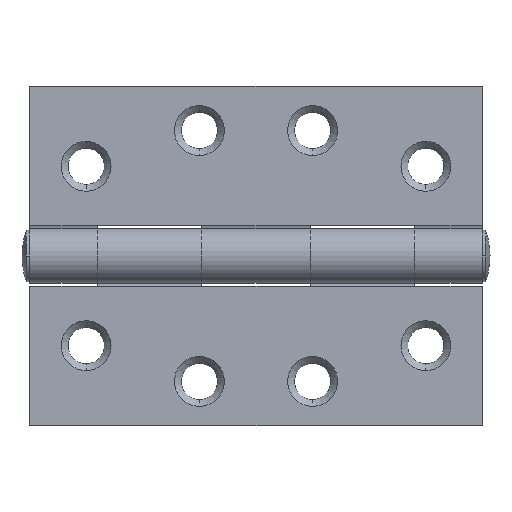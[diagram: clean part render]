
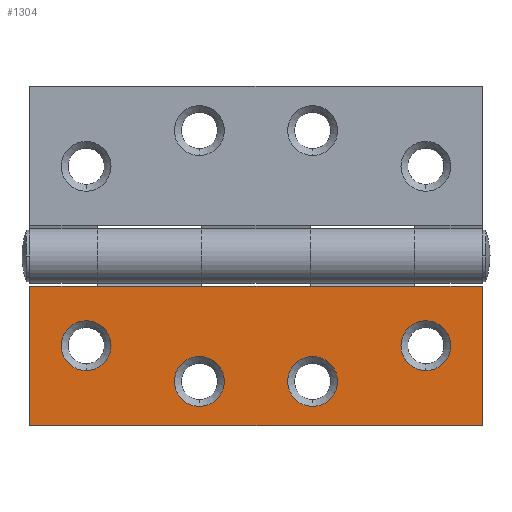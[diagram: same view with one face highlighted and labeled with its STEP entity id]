
A CAD part, left-side view. The second image highlights one B-rep face of the part: STEP entity #1304.
In plain terms, the highlighted planar face has unit normal (-1, 0, 0) as drawn and (0, 1, 0) by its records, which use the part's own axes.
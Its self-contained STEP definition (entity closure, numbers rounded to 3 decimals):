
#16 = AXIS2_PLACEMENT_3D ( 'NONE', #2239, #921, #2735 ) ;
#33 = CARTESIAN_POINT ( 'NONE',  ( 50., 0., 0. ) ) ;
#40 = ORIENTED_EDGE ( 'NONE', *, *, #143, .T. ) ;
#46 = AXIS2_PLACEMENT_3D ( 'NONE', #118, #1732, #2737 ) ;
#51 = EDGE_CURVE ( 'NONE', #616, #1206, #963, .T. ) ;
#66 = VECTOR ( 'NONE', #847, 1000. ) ;
#118 = CARTESIAN_POINT ( 'NONE',  ( 12.5, 0., -21.07 ) ) ;
#143 = EDGE_CURVE ( 'NONE', #1206, #616, #1952, .T. ) ;
#169 = CARTESIAN_POINT ( 'NONE',  ( 37.5, 0., -13.17 ) ) ;
#171 = CARTESIAN_POINT ( 'NONE',  ( 50., 0., 0. ) ) ;
#199 = EDGE_CURVE ( 'NONE', #2442, #2938, #706, .T. ) ;
#204 = EDGE_LOOP ( 'NONE', ( #2121, #2238 ) ) ;
#227 = VERTEX_POINT ( 'NONE', #1708 ) ;
#256 = VECTOR ( 'NONE', #770, 1000. ) ;
#295 = DIRECTION ( 'NONE',  ( 0., -1., 0. ) ) ;
#296 = VECTOR ( 'NONE', #3100, 1000. ) ;
#310 = VERTEX_POINT ( 'NONE', #686 ) ;
#348 = CARTESIAN_POINT ( 'NONE',  ( -12., 0., 0. ) ) ;
#352 = CIRCLE ( 'NONE', #1311, 5.5 ) ;
#384 = EDGE_CURVE ( 'NONE', #2938, #2821, #1869, .T. ) ;
#385 = DIRECTION ( 'NONE',  ( 0., 0., -1. ) ) ;
#387 = DIRECTION ( 'NONE',  ( 0., 0., 1. ) ) ;
#397 = ORIENTED_EDGE ( 'NONE', *, *, #1814, .T. ) ;
#410 = EDGE_LOOP ( 'NONE', ( #909, #397 ) ) ;
#430 = AXIS2_PLACEMENT_3D ( 'NONE', #589, #295, #1909 ) ;
#455 = CARTESIAN_POINT ( 'NONE',  ( 12., 0., 0. ) ) ;
#512 = DIRECTION ( 'NONE',  ( 0., 1., 0. ) ) ;
#519 = ORIENTED_EDGE ( 'NONE', *, *, #2359, .F. ) ;
#521 = EDGE_LOOP ( 'NONE', ( #1164, #1193 ) ) ;
#566 = AXIS2_PLACEMENT_3D ( 'NONE', #620, #3037, #387 ) ;
#577 = FACE_BOUND ( 'NONE', #410, .T. ) ;
#578 = EDGE_LOOP ( 'NONE', ( #2440, #2449, #3230, #1693, #2616, #519, #794, #874 ) ) ;
#585 = CIRCLE ( 'NONE', #3309, 5.5 ) ;
#589 = CARTESIAN_POINT ( 'NONE',  ( -37.5, 0., -13.17 ) ) ;
#592 = CARTESIAN_POINT ( 'NONE',  ( -50., 0., -30.87 ) ) ;
#616 = VERTEX_POINT ( 'NONE', #1195 ) ;
#620 = CARTESIAN_POINT ( 'NONE',  ( -37.5, 0., -13.17 ) ) ;
#630 = EDGE_CURVE ( 'NONE', #2494, #1326, #748, .T. ) ;
#633 = CARTESIAN_POINT ( 'NONE',  ( -50., 0., 0. ) ) ;
#637 = AXIS2_PLACEMENT_3D ( 'NONE', #169, #2010, #1249 ) ;
#676 = CIRCLE ( 'NONE', #1069, 5.5 ) ;
#686 = CARTESIAN_POINT ( 'NONE',  ( 50., 0., -30.87 ) ) ;
#703 = AXIS2_PLACEMENT_3D ( 'NONE', #1850, #512, #1316 ) ;
#706 = LINE ( 'NONE', #3234, #2414 ) ;
#743 = VERTEX_POINT ( 'NONE', #2532 ) ;
#748 = CIRCLE ( 'NONE', #46, 5.5 ) ;
#762 = DIRECTION ( 'NONE',  ( -1., 0., 0. ) ) ;
#770 = DIRECTION ( 'NONE',  ( -1., 0., 0. ) ) ;
#794 = ORIENTED_EDGE ( 'NONE', *, *, #1759, .T. ) ;
#838 = CARTESIAN_POINT ( 'NONE',  ( 37.5, 0., -13.17 ) ) ;
#847 = DIRECTION ( 'NONE',  ( -1., 0., 0. ) ) ;
#861 = CARTESIAN_POINT ( 'NONE',  ( -12.5, 0., -21.07 ) ) ;
#874 = ORIENTED_EDGE ( 'NONE', *, *, #3314, .T. ) ;
#909 = ORIENTED_EDGE ( 'NONE', *, *, #1534, .T. ) ;
#921 = DIRECTION ( 'NONE',  ( 0., -1., 0. ) ) ;
#963 = CIRCLE ( 'NONE', #566, 5.5 ) ;
#966 = EDGE_CURVE ( 'NONE', #2272, #743, #3194, .T. ) ;
#1012 = VERTEX_POINT ( 'NONE', #3047 ) ;
#1039 = EDGE_LOOP ( 'NONE', ( #40, #3367 ) ) ;
#1069 = AXIS2_PLACEMENT_3D ( 'NONE', #861, #1368, #1665 ) ;
#1102 = VECTOR ( 'NONE', #1629, 1000. ) ;
#1111 = CARTESIAN_POINT ( 'NONE',  ( 50., 0., 0. ) ) ;
#1127 = DIRECTION ( 'NONE',  ( 0., -1., 0. ) ) ;
#1164 = ORIENTED_EDGE ( 'NONE', *, *, #2048, .T. ) ;
#1193 = ORIENTED_EDGE ( 'NONE', *, *, #1719, .T. ) ;
#1195 = CARTESIAN_POINT ( 'NONE',  ( -37.5, 0., -18.67 ) ) ;
#1206 = VERTEX_POINT ( 'NONE', #2610 ) ;
#1249 = DIRECTION ( 'NONE',  ( 0., 0., 1. ) ) ;
#1295 = CARTESIAN_POINT ( 'NONE',  ( 50., 0., 0. ) ) ;
#1304 = ADVANCED_FACE ( 'NONE', ( #2701, #1460, #577, #2252, #3335 ), #2637, .T. ) ;
#1311 = AXIS2_PLACEMENT_3D ( 'NONE', #3229, #2692, #1334 ) ;
#1316 = DIRECTION ( 'NONE',  ( 0., 0., 1. ) ) ;
#1326 = VERTEX_POINT ( 'NONE', #3417 ) ;
#1334 = DIRECTION ( 'NONE',  ( 0., 0., 1. ) ) ;
#1354 = VERTEX_POINT ( 'NONE', #592 ) ;
#1368 = DIRECTION ( 'NONE',  ( 0., -1., 0. ) ) ;
#1460 = FACE_BOUND ( 'NONE', #204, .T. ) ;
#1534 = EDGE_CURVE ( 'NONE', #3082, #1012, #3424, .T. ) ;
#1629 = DIRECTION ( 'NONE',  ( 0., 0., -1. ) ) ;
#1637 = DIRECTION ( 'NONE',  ( -1., 0., 0. ) ) ;
#1665 = DIRECTION ( 'NONE',  ( 0., 0., 1. ) ) ;
#1676 = LINE ( 'NONE', #633, #2301 ) ;
#1693 = ORIENTED_EDGE ( 'NONE', *, *, #384, .F. ) ;
#1708 = CARTESIAN_POINT ( 'NONE',  ( 37.5, 0., -7.67 ) ) ;
#1719 = EDGE_CURVE ( 'NONE', #3023, #227, #585, .T. ) ;
#1732 = DIRECTION ( 'NONE',  ( 0., -1., 0. ) ) ;
#1759 = EDGE_CURVE ( 'NONE', #3069, #310, #3046, .T. ) ;
#1803 = CARTESIAN_POINT ( 'NONE',  ( 50., 0., 0. ) ) ;
#1814 = EDGE_CURVE ( 'NONE', #1012, #3082, #676, .T. ) ;
#1815 = CARTESIAN_POINT ( 'NONE',  ( -12.5, 0., -15.57 ) ) ;
#1850 = CARTESIAN_POINT ( 'NONE',  ( 50., 0., 0. ) ) ;
#1854 = EDGE_CURVE ( 'NONE', #743, #1354, #1676, .T. ) ;
#1869 = LINE ( 'NONE', #1111, #66 ) ;
#1909 = DIRECTION ( 'NONE',  ( 0., 0., 1. ) ) ;
#1952 = CIRCLE ( 'NONE', #430, 5.5 ) ;
#2010 = DIRECTION ( 'NONE',  ( 0., -1., 0. ) ) ;
#2048 = EDGE_CURVE ( 'NONE', #227, #3023, #2841, .T. ) ;
#2121 = ORIENTED_EDGE ( 'NONE', *, *, #630, .T. ) ;
#2135 = CARTESIAN_POINT ( 'NONE',  ( 35., 0., 0. ) ) ;
#2158 = DIRECTION ( 'NONE',  ( 0., 0., 1. ) ) ;
#2238 = ORIENTED_EDGE ( 'NONE', *, *, #3407, .T. ) ;
#2239 = CARTESIAN_POINT ( 'NONE',  ( -12.5, 0., -21.07 ) ) ;
#2242 = VECTOR ( 'NONE', #2793, 1000. ) ;
#2252 = FACE_BOUND ( 'NONE', #1039, .T. ) ;
#2272 = VERTEX_POINT ( 'NONE', #3455 ) ;
#2276 = LINE ( 'NONE', #2354, #3186 ) ;
#2301 = VECTOR ( 'NONE', #385, 1000. ) ;
#2354 = CARTESIAN_POINT ( 'NONE',  ( 50., 0., -30.87 ) ) ;
#2359 = EDGE_CURVE ( 'NONE', #3069, #2442, #2847, .T. ) ;
#2381 = CARTESIAN_POINT ( 'NONE',  ( 12.5, 0., -15.57 ) ) ;
#2393 = LINE ( 'NONE', #171, #296 ) ;
#2414 = VECTOR ( 'NONE', #1637, 1000. ) ;
#2440 = ORIENTED_EDGE ( 'NONE', *, *, #1854, .F. ) ;
#2442 = VERTEX_POINT ( 'NONE', #2135 ) ;
#2449 = ORIENTED_EDGE ( 'NONE', *, *, #966, .F. ) ;
#2494 = VERTEX_POINT ( 'NONE', #2381 ) ;
#2532 = CARTESIAN_POINT ( 'NONE',  ( -50., 0., 0. ) ) ;
#2610 = CARTESIAN_POINT ( 'NONE',  ( -37.5, 0., -7.67 ) ) ;
#2616 = ORIENTED_EDGE ( 'NONE', *, *, #199, .F. ) ;
#2637 = PLANE ( 'NONE',  #703 ) ;
#2692 = DIRECTION ( 'NONE',  ( 0., -1., 0. ) ) ;
#2701 = FACE_BOUND ( 'NONE', #521, .T. ) ;
#2735 = DIRECTION ( 'NONE',  ( 0., 0., 1. ) ) ;
#2737 = DIRECTION ( 'NONE',  ( 0., 0., 1. ) ) ;
#2793 = DIRECTION ( 'NONE',  ( -1., 0., 0. ) ) ;
#2821 = VERTEX_POINT ( 'NONE', #348 ) ;
#2841 = CIRCLE ( 'NONE', #637, 5.5 ) ;
#2847 = LINE ( 'NONE', #1295, #256 ) ;
#2938 = VERTEX_POINT ( 'NONE', #455 ) ;
#3023 = VERTEX_POINT ( 'NONE', #3338 ) ;
#3037 = DIRECTION ( 'NONE',  ( 0., -1., 0. ) ) ;
#3046 = LINE ( 'NONE', #33, #1102 ) ;
#3047 = CARTESIAN_POINT ( 'NONE',  ( -12.5, 0., -26.57 ) ) ;
#3069 = VERTEX_POINT ( 'NONE', #1803 ) ;
#3082 = VERTEX_POINT ( 'NONE', #1815 ) ;
#3100 = DIRECTION ( 'NONE',  ( -1., 0., 0. ) ) ;
#3176 = EDGE_CURVE ( 'NONE', #2821, #2272, #2393, .T. ) ;
#3186 = VECTOR ( 'NONE', #762, 1000. ) ;
#3194 = LINE ( 'NONE', #3366, #2242 ) ;
#3229 = CARTESIAN_POINT ( 'NONE',  ( 12.5, 0., -21.07 ) ) ;
#3230 = ORIENTED_EDGE ( 'NONE', *, *, #3176, .F. ) ;
#3234 = CARTESIAN_POINT ( 'NONE',  ( 50., 0., 0. ) ) ;
#3309 = AXIS2_PLACEMENT_3D ( 'NONE', #838, #1127, #2158 ) ;
#3314 = EDGE_CURVE ( 'NONE', #310, #1354, #2276, .T. ) ;
#3335 = FACE_OUTER_BOUND ( 'NONE', #578, .T. ) ;
#3338 = CARTESIAN_POINT ( 'NONE',  ( 37.5, 0., -18.67 ) ) ;
#3366 = CARTESIAN_POINT ( 'NONE',  ( 50., 0., 0. ) ) ;
#3367 = ORIENTED_EDGE ( 'NONE', *, *, #51, .T. ) ;
#3407 = EDGE_CURVE ( 'NONE', #1326, #2494, #352, .T. ) ;
#3417 = CARTESIAN_POINT ( 'NONE',  ( 12.5, 0., -26.57 ) ) ;
#3424 = CIRCLE ( 'NONE', #16, 5.5 ) ;
#3455 = CARTESIAN_POINT ( 'NONE',  ( -35., 0., 0. ) ) ;
